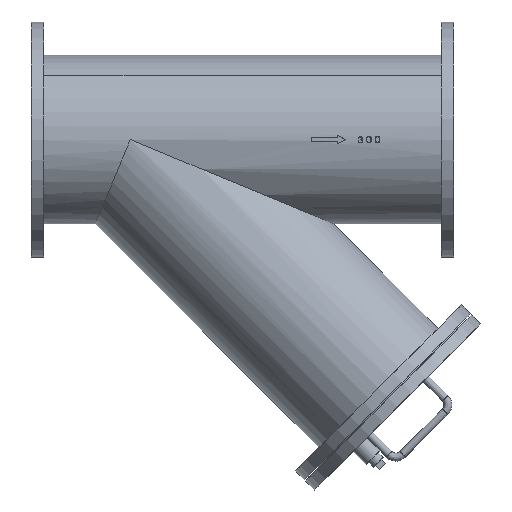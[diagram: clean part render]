
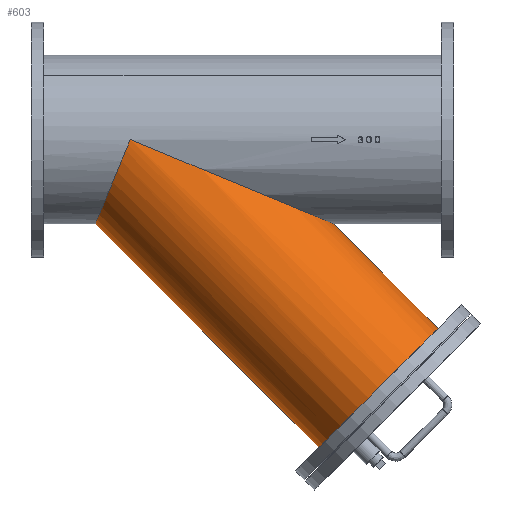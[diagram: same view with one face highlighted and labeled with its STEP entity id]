
A CAD part, front view. The second image highlights one B-rep face of the part: STEP entity #603.
In plain terms, the highlighted cylindrical face has radius 159.25 mm (diameter 318.5 mm), a partial arc.
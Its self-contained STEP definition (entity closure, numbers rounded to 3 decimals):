
#603=ADVANCED_FACE('',(#1786),#1785,.T.);
#1785=CYLINDRICAL_SURFACE('',#5204,159.25);
#1786=FACE_OUTER_BOUND('',#5205,.T.);
#5201=CARTESIAN_POINT('',(93.75,0.,93.75));
#5202=DIRECTION('',(-0.707,0.,0.707));
#5203=DIRECTION('',(0.707,0.,0.707));
#5204=AXIS2_PLACEMENT_3D('',#5201,#5202,#5203);
#5205=EDGE_LOOP('',(#6843,#6844,#6845,#6846,#6847));
#6843=ORIENTED_EDGE('',*,*,#7732,.F.);
#6844=ORIENTED_EDGE('',*,*,#7729,.T.);
#6845=ORIENTED_EDGE('',*,*,#7727,.F.);
#6846=ORIENTED_EDGE('',*,*,#7726,.F.);
#6847=ORIENTED_EDGE('',*,*,#7731,.F.);
#7726=EDGE_CURVE('',#10407,#10414,#10415,.T.);
#7727=EDGE_CURVE('',#10414,#10421,#10422,.T.);
#7729=EDGE_CURVE('',#10434,#10421,#10435,.T.);
#7731=EDGE_CURVE('',#10441,#10407,#10448,.T.);
#7732=EDGE_CURVE('',#10434,#10441,#10454,.T.);
#10407=VERTEX_POINT('',#14339);
#10414=VERTEX_POINT('',#14343);
#10415=(BOUNDED_CURVE() B_SPLINE_CURVE(2,(#14344,#14345,#14346),.UNSPECIFIED.,.F.,.F.) B_SPLINE_CURVE_WITH_KNOTS((3,3),(6.283,7.854),.UNSPECIFIED.) CURVE() GEOMETRIC_REPRESENTATION_ITEM() RATIONAL_B_SPLINE_CURVE((1.,0.707,1.)) REPRESENTATION_ITEM('') );
#10421=VERTEX_POINT('',#14347);
#10422=(BOUNDED_CURVE() B_SPLINE_CURVE(2,(#14348,#14349,#14350),.UNSPECIFIED.,.F.,.F.) B_SPLINE_CURVE_WITH_KNOTS((3,3),(-4.712,-3.142),.UNSPECIFIED.) CURVE() GEOMETRIC_REPRESENTATION_ITEM() RATIONAL_B_SPLINE_CURVE((1.,0.707,1.)) REPRESENTATION_ITEM('') );
#10434=VERTEX_POINT('',#14354);
#10435=(BOUNDED_CURVE() B_SPLINE_CURVE(1,(#14355,#14356),.UNSPECIFIED.,.F.,.F.) B_SPLINE_CURVE_WITH_KNOTS((2,2),(0.015,0.424),.UNSPECIFIED.) CURVE() GEOMETRIC_REPRESENTATION_ITEM() RATIONAL_B_SPLINE_CURVE((1.,1.)) REPRESENTATION_ITEM('') );
#10441=VERTEX_POINT('',#14357);
#10448=(BOUNDED_CURVE() B_SPLINE_CURVE(1,(#14362,#14363),.UNSPECIFIED.,.F.,.F.) B_SPLINE_CURVE_WITH_KNOTS((2,2),(0.015,0.889),.UNSPECIFIED.) CURVE() GEOMETRIC_REPRESENTATION_ITEM() RATIONAL_B_SPLINE_CURVE((0.75,0.75)) REPRESENTATION_ITEM('') );
#10454=CIRCLE('',#14367,159.25);
#14339=CARTESIAN_POINT('',(121.536,0.,-159.25));
#14343=CARTESIAN_POINT('',(187.5,-159.25,0.));
#14344=CARTESIAN_POINT('',(121.536,0.,-159.25));
#14345=CARTESIAN_POINT('',(121.536,-159.25,-159.25));
#14346=CARTESIAN_POINT('',(187.5,-159.25,0.));
#14347=CARTESIAN_POINT('',(571.964,0.,-159.25));
#14348=CARTESIAN_POINT('',(187.5,-159.25,0.));
#14349=CARTESIAN_POINT('',(571.964,-159.25,-159.25));
#14350=CARTESIAN_POINT('',(571.964,0.,-159.25));
#14354=CARTESIAN_POINT('',(769.903,0.,-357.19));
#14355=CARTESIAN_POINT('',(769.903,0.,-357.19));
#14356=CARTESIAN_POINT('',(571.964,0.,-159.25));
#14357=CARTESIAN_POINT('',(544.69,0.,-582.403));
#14362=CARTESIAN_POINT('',(544.69,0.,-582.403));
#14363=CARTESIAN_POINT('',(121.536,0.,-159.25));
#14364=CARTESIAN_POINT('',(657.296,0.,-469.796));
#14365=DIRECTION('',(0.707,0.,-0.707));
#14366=DIRECTION('',(-0.707,0.,-0.707));
#14367=AXIS2_PLACEMENT_3D('',#14364,#14365,#14366);
